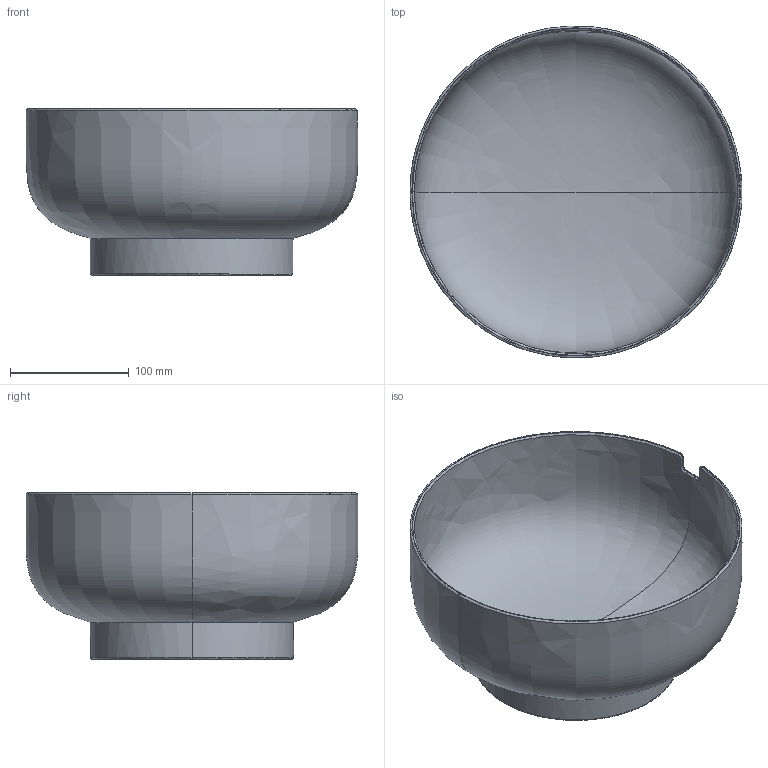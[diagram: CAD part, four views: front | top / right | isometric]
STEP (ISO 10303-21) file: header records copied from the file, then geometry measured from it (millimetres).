
FILE_DESCRIPTION(/* description */ (''),/* implementation_level */ '2;1');
FILE_NAME(/* name */ 'Matua',/* time_stamp */ '2025-07-11T09:32:28+02:00',/* author */ (''),/* organization */ (''),/* preprocessor_version */ 'ST-DEVELOPER v16.5',/* originating_system */ 'Rhino 7.37',/* authorisation */ '');
FILE_SCHEMA (('AUTOMOTIVE_DESIGN'));
Length unit declared in the file: millimetre
Products named in the file (1): Document
Bounding box: 280 x 280 x 140 mm (x, y, z)
Volume: 509415.6 mm3; surface area: 293344.9 mm2
Topology: 1 solids, 1 shells, 49 faces, 115 edges, 64 vertices
Faces by surface type: bspline 36, cylinder 10, plane 3
Entity records: 5324 total; most frequent: CARTESIAN_POINT 4678, ORIENTED_EDGE 222, EDGE_CURVE 111, VERTEX_POINT 64, ADVANCED_FACE 49, FACE_OUTER_BOUND 49, EDGE_LOOP 49, B_SPLINE_CURVE_WITH_KNOTS 27
